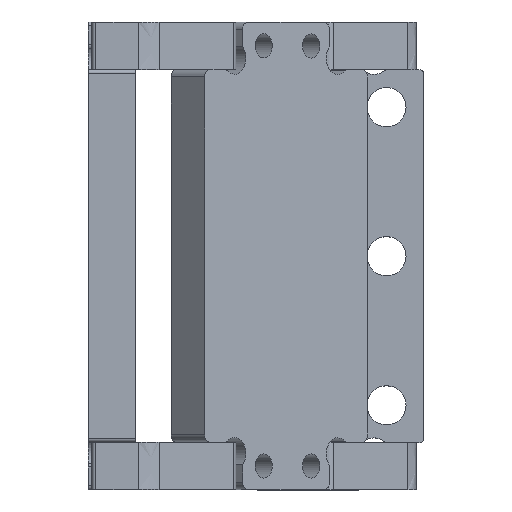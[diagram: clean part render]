
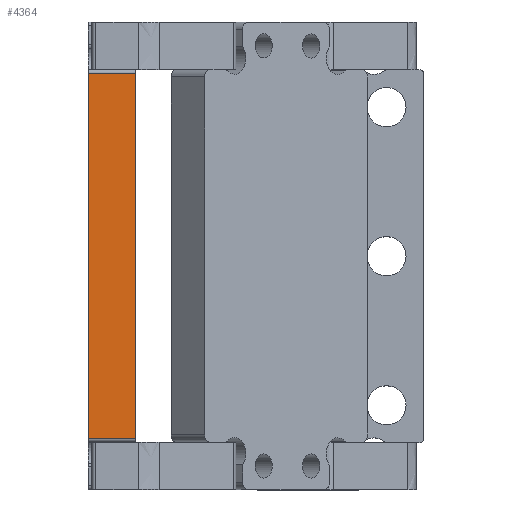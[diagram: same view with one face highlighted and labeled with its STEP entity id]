
A CAD part, top view. The second image highlights one B-rep face of the part: STEP entity #4364.
In plain terms, the highlighted planar face has unit normal (0, 0, 1).
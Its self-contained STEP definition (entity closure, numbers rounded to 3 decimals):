
#307=PLANE('',#4689);
#452=FACE_OUTER_BOUND('',#704,.T.);
#704=EDGE_LOOP('',(#3341,#3342,#3343,#3344));
#965=LINE('',#6749,#1257);
#988=LINE('',#6992,#1280);
#995=LINE('',#7028,#1287);
#1005=LINE('',#7186,#1297);
#1257=VECTOR('',#5229,10.);
#1280=VECTOR('',#5318,10.);
#1287=VECTOR('',#5355,10.);
#1297=VECTOR('',#5407,10.);
#1821=VERTEX_POINT('',#6745);
#1823=VERTEX_POINT('',#6748);
#1866=VERTEX_POINT('',#6990);
#1880=VERTEX_POINT('',#7026);
#2324=EDGE_CURVE('',#1823,#1821,#965,.T.);
#2387=EDGE_CURVE('',#1866,#1821,#988,.T.);
#2405=EDGE_CURVE('',#1880,#1866,#995,.T.);
#2436=EDGE_CURVE('',#1880,#1823,#1005,.T.);
#3341=ORIENTED_EDGE('',*,*,#2405,.F.);
#3342=ORIENTED_EDGE('',*,*,#2436,.T.);
#3343=ORIENTED_EDGE('',*,*,#2324,.T.);
#3344=ORIENTED_EDGE('',*,*,#2387,.F.);
#4364=ADVANCED_FACE('',(#452),#307,.T.);
#4689=AXIS2_PLACEMENT_3D('',#7185,#5405,#5406);
#5229=DIRECTION('',(1.,0.,0.));
#5318=DIRECTION('',(0.,-1.,0.));
#5355=DIRECTION('',(1.,0.,0.));
#5405=DIRECTION('center_axis',(0.,0.,1.));
#5406=DIRECTION('ref_axis',(-1.,0.,0.));
#5407=DIRECTION('',(0.,-1.,0.));
#6745=CARTESIAN_POINT('',(6.35,-49.5,45.));
#6748=CARTESIAN_POINT('',(0.,-49.5,45.));
#6749=CARTESIAN_POINT('',(4.763,-49.5,45.));
#6990=CARTESIAN_POINT('',(6.35,-0.5,45.));
#6992=CARTESIAN_POINT('',(6.35,0.,45.));
#7026=CARTESIAN_POINT('',(0.,-0.5,45.));
#7028=CARTESIAN_POINT('',(4.763,-0.5,45.));
#7185=CARTESIAN_POINT('Origin',(6.35,0.,45.));
#7186=CARTESIAN_POINT('',(0.,0.,45.));
